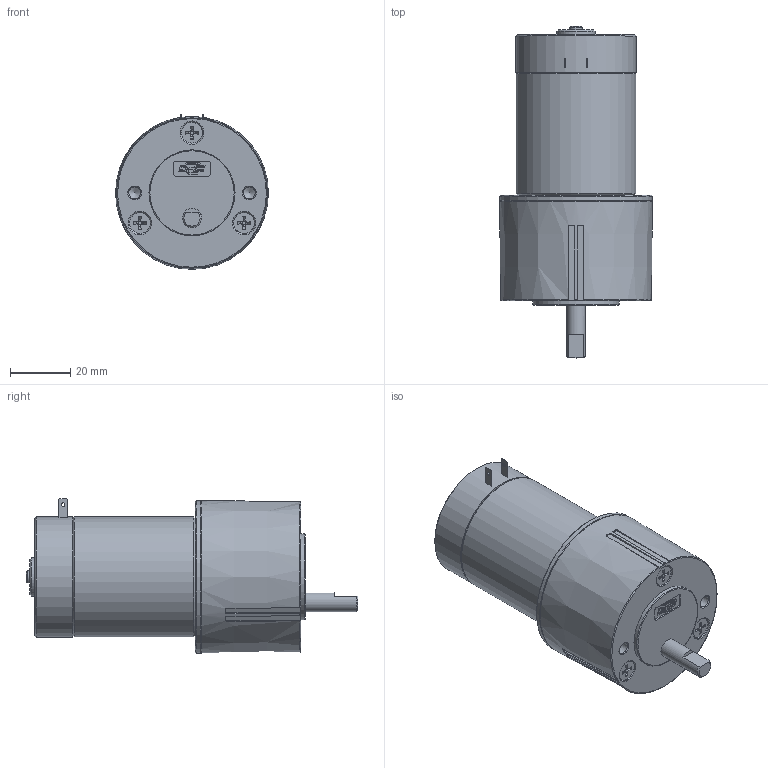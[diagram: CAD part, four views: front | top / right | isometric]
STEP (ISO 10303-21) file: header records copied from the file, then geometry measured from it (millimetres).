
FILE_DESCRIPTION((''),'2;1');
FILE_NAME('Z:\4_DC\새 폴더\RS4 SERIES\RS43ㅁㅁTㅁ.stp','2015-03-25T17:13:55',('kdhkdh'),(''),'Autodesk Inventor 2013','Autodesk Inventor 2013','');
FILE_SCHEMA(('AUTOMOTIVE_DESIGN { 1 0 10303 214 1 1 1 1 }'));
Length unit declared in the file: millimetre
Products named in the file (1): 부품2
Bounding box: 50.8 x 110.29 x 51.4 mm (x, y, z)
Volume: 138100.9 mm3; surface area: 17833.7 mm2
Topology: 1 solids, 3 shells, 367 faces, 967 edges, 633 vertices
Faces by surface type: plane 199, cylinder 101, cone 45, torus 22
Full cylindrical faces by diameter (mm): 1.2 x2, 2.8 x4, 3.5 x2, 3.7 x2, 3.962 x2, 4 x1, 6.34 x1, 6.9 x5, 7.8 x3, 12.7 x1, 28.575 x1, 40 x2, 50.8 x1
Entity records: 11662 total; most frequent: CARTESIAN_POINT 2925, ORIENTED_EDGE 1790, DIRECTION 1724, EDGE_CURVE 895, AXIS2_PLACEMENT_3D 633, VERTEX_POINT 614, EDGE_LOOP 458, VECTOR 458
